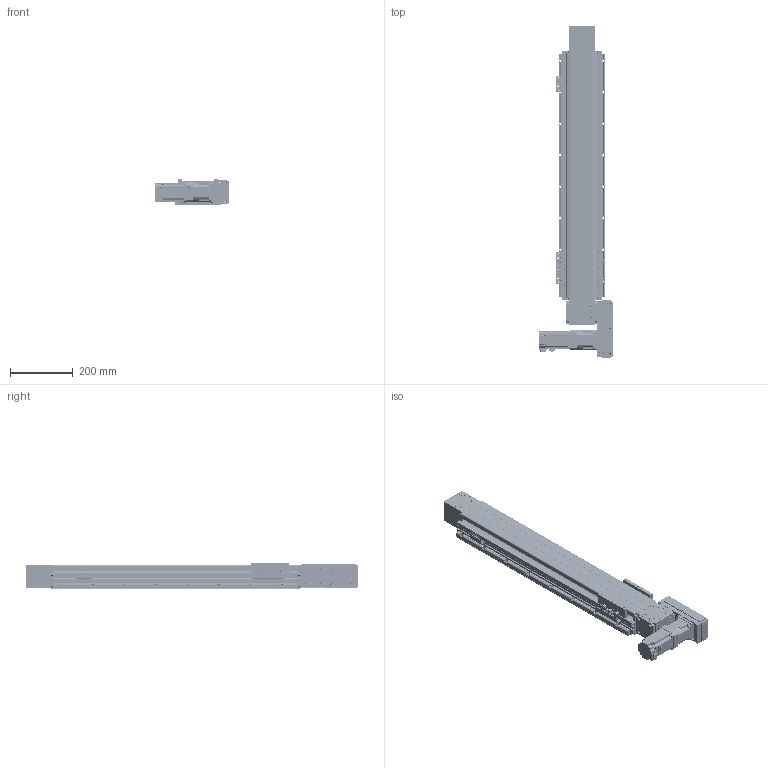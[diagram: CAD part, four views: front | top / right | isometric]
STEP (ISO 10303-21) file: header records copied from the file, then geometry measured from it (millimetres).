
FILE_DESCRIPTION(/* description */ (''),/* implementation_level */ '2;1');
FILE_NAME(/* name */ '\\192.168.0.160\disk1\HAN SHIN Master\B-설계부문\C-표준\B-2024년\BC02-표준도면\+로봇 개선표준도면\홈페이지 표준 도면\홈페이지 최종 작업 폴더\3D\HSB\HSB125\HSB125-R4G-N-0600-L.stp',/* time_stamp */ '2025-01-11T09:26:13+09:00',/* author */ ('user'),/* organization */ (''),/* preprocessor_version */ 'ST-DEVELOPER v18.1',/* originating_system */ 'Autodesk Inventor 2022',/* authorisation */ '');
FILE_SCHEMA (('AUTOMOTIVE_DESIGN { 1 0 10303 214 3 1 1 }'));
Products named in the file (32): HSB125-R4G-N-0500-L; BASE; REAR COVER; HSB125 FORNT HOUSUNG (Connecting); HSB160 REAR SHAFT-2; REAR SHAFT--2; HSB125 REAR HOUSUNG; TENSION PLATE; HSB160 ARC COVER; UPCOVER; hsr_ftht_A-M6F_grease_nipple_joint; NIPPLE CAP(신규); 6003ZZ; HSB125 TABLE (TEST); HG90STOPPER - 17L; SIDE COVER; PGX62-H-1_3; hg-kr43_; HSB125 END COVER; HSB160 SHAFT-1; NSK_6205; HSB160 BEARING OVER; HR120 SENSOR DOG; SENSOR BRK(EE-SX674A); EE_SX674A; HSB125 R; HR120 LR BELT COVER; HR160 ACRYL COVER - 1; HR160 ACRYL COVER - 1_1; HR160 ACRYL COVER - 1_2; HR120 LR MOTOR PLATE (400W)-사출; MOTOR PLATE - 200W
Assembly tree (53 placements, depth 3):
  HSB125-R4G-N-0500-L
    BASE
    REAR COVER  x2
    HSB125 FORNT HOUSUNG (Connecting)
    HSB160 REAR SHAFT-2
    REAR SHAFT--2
    HSB125 REAR HOUSUNG
    TENSION PLATE  x2
    HSB160 ARC COVER  x4
    HG90STOPPER - 17L  x4
    UPCOVER
    NIPPLE CAP(신규)  x4
    hsr_ftht_A-M6F_grease_nipple_joint  x4
    6003ZZ  x2
    HSB125 TABLE (TEST)
    SIDE COVER  x2
    PGX62-H-1_3
    hg-kr43_
    HSB125 END COVER
    HSB160 SHAFT-1
    NSK_6205  x2
    HSB160 BEARING OVER
    SENSOR BRK(EE-SX674A)  x3
    EE_SX674A  x3
    HR120 SENSOR DOG
    HSB125 R
      HR120 LR BELT COVER
      HR160 ACRYL COVER - 1
      HR160 ACRYL COVER - 1_1
      HR160 ACRYL COVER - 1_2  x2
      HR120 LR MOTOR PLATE (400W)-사출
      MOTOR PLATE - 200W
Bounding box: 233.3 x 1054.5 x 85 mm (x, y, z)
Volume: 4076129.9 mm3; surface area: 1418887 mm2
Topology: 117 solids, 117 shells, 6733 faces, 18677 edges, 12298 vertices
Faces by surface type: plane 4875, cylinder 1345, cone 353, sphere 72, torus 61, bspline 27
Full cylindrical faces by diameter (mm): 2.459 x74, 3 x20, 3.242 x60, 3.3 x5, 3.4 x40, 3.5 x6, 4 x9, 4.134 x38, 4.2 x10, 4.5 x37, 4.917 x24, 5 x20, 5.5 x55, 5.6 x4, 5.8 x4, 5.9 x8, 6 x12, 6.5 x8, 6.647 x16, 7 x1, 7.5 x24, 8 x4, 8.5 x4, 9 x4, 9.2 x4, 9.5 x27, 12 x2, 14 x1, 14.2 x1, 15 x4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
Entity records: 152538 total; most frequent: CARTESIAN_POINT 30178, ORIENTED_EDGE 25258, DIRECTION 24393, EDGE_CURVE 12629, LINE 9439, VECTOR 9439, VERTEX_POINT 8399, AXIS2_PLACEMENT_3D 7477
